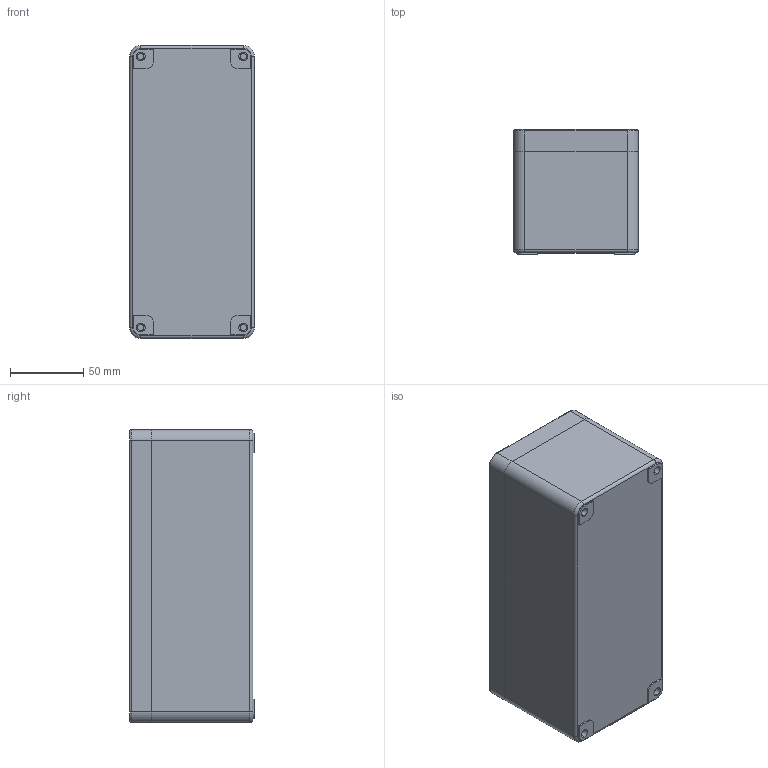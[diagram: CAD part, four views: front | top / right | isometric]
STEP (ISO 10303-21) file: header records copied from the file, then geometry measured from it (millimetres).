
FILE_DESCRIPTION (( 'STEP AP214' ), '1' );
FILE_NAME ('040C0820-8P5LC.STEP', '2018-08-16T14:02:17', ( '' ), ( '' ), 'SwSTEP 2.0', 'SolidWorks 2013', '' );
FILE_SCHEMA (( 'AUTOMOTIVE_DESIGN' ));
Length unit declared in the file: millimetre
Products named in the file (1): 040C0820-8P5LC
Bounding box: 85 x 85 x 200 mm (x, y, z)
Volume: 257373 mm3; surface area: 166141.7 mm2
Topology: 6 solids, 6 shells, 603 faces, 1501 edges, 950 vertices
Faces by surface type: plane 273, cylinder 250, torus 80
Entity records: 23967 total; most frequent: DIRECTION 3270, CARTESIAN_POINT 3103, ORIENTED_EDGE 3002, EDGE_CURVE 1501, AXIS2_PLACEMENT_3D 1181, VERTEX_POINT 950, LINE 908, VECTOR 908
